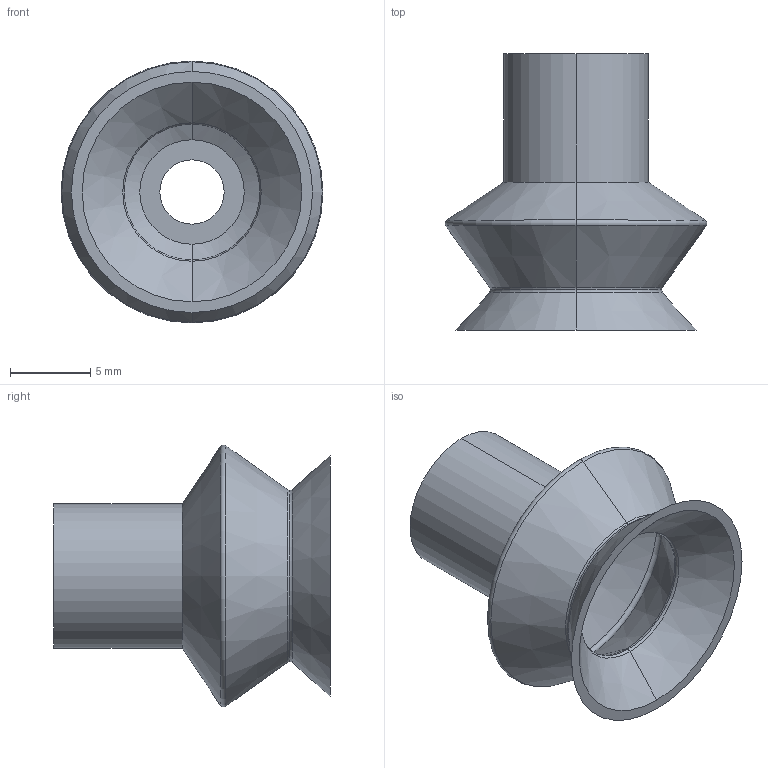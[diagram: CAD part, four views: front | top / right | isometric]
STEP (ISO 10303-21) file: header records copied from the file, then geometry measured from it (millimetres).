
FILE_DESCRIPTION (( 'STEP AP214' ), '1' );
FILE_NAME ('210.015.012.V.STEP', '2019-11-04T21:51:10', ( '' ), ( '' ), 'SwSTEP 2.0', 'SolidWorks 2018', '' );
FILE_SCHEMA (( 'AUTOMOTIVE_DESIGN' ));
Length unit declared in the file: millimetre
Products named in the file (1): 210.015.012.V
Bounding box: 16.29 x 17.2 x 16.29 mm (x, y, z)
Volume: 822.9 mm3; surface area: 1404.1 mm2
Topology: 1 solids, 1 shells, 31 faces, 62 edges, 34 vertices
Faces by surface type: torus 12, cone 12, cylinder 4, plane 3
Entity records: 844 total; most frequent: DIRECTION 172, CARTESIAN_POINT 128, ORIENTED_EDGE 124, AXIS2_PLACEMENT_3D 78, EDGE_CURVE 62, CIRCLE 46, VERTEX_POINT 34, EDGE_LOOP 34
